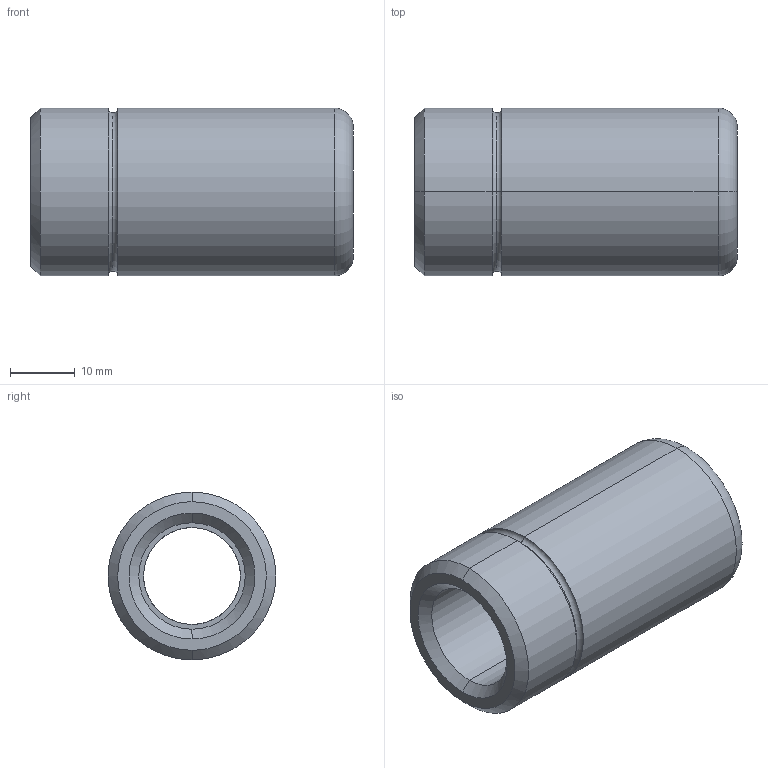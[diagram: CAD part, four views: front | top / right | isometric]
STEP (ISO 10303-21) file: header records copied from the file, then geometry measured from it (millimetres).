
FILE_DESCRIPTION(('CATIA V5 STEP Exchange'),'2;1');
FILE_NAME('C:\Users\Utente\Desktop\IO LAVORO\3D X SITO CF\X SITO\3D files 348\348-15 x 50.stp','2020-12-30T20:46:10+00:00',('none'),('none'),'CATIA Version 5 Release 20 GA (IN-10)','CATIA V5 STEP AP203','none');
FILE_SCHEMA(('CONFIG_CONTROL_DESIGN'));
Length unit declared in the file: millimetre
Products named in the file (1): 348-15 x 50
Bounding box: 50 x 26 x 26 mm (x, y, z)
Volume: 16444.3 mm3; surface area: 7163.8 mm2
Topology: 1 solids, 1 shells, 29 faces, 86 edges, 60 vertices
Faces by surface type: torus 12, cylinder 10, cone 4, plane 3
Entity records: 1142 total; most frequent: CARTESIAN_POINT 332, ORIENTED_EDGE 172, DIRECTION 132, AXIS2_PLACEMENT_3D 90, EDGE_CURVE 86, CIRCLE 60, VERTEX_POINT 60, EDGE_LOOP 32
